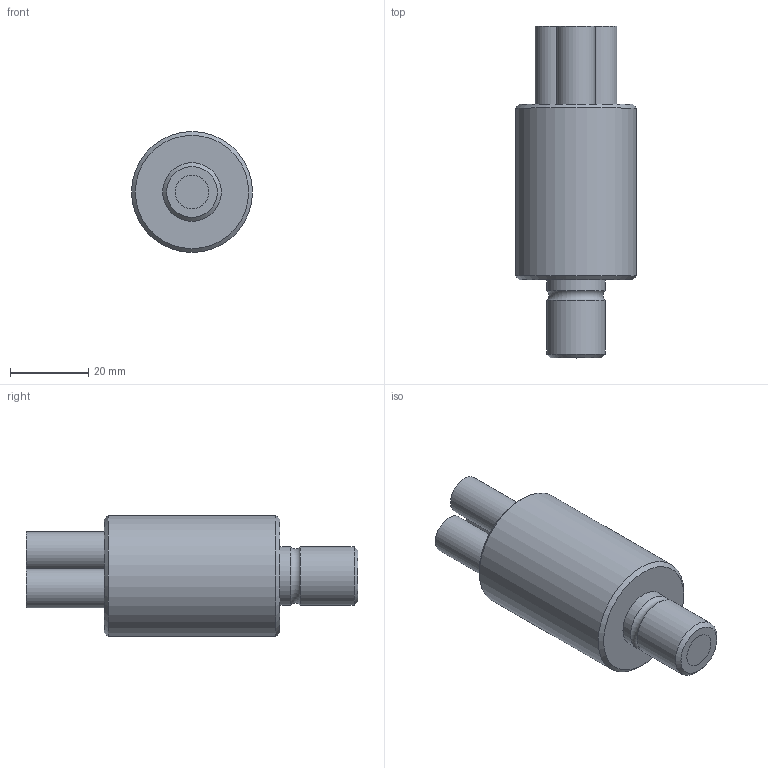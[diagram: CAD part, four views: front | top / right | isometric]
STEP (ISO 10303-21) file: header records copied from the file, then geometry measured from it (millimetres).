
FILE_DESCRIPTION(/* description */ (''),/* implementation_level */ '2;1');
FILE_NAME(/* name */ '//sv004/特品事業部/特品共通フォルダ/☆社外用データテスト/01_製品関連/0121_ライトガイド関連/3D図面/LGC3-5L 共通受光部.step',/* time_stamp */ '2022-09-27T14:22:40+09:00',/* author */ (''),/* organization */ (''),/* preprocessor_version */ 'ST-DEVELOPER v19',/* originating_system */ 'Autodesk Translation Framework v11.7.0.108',/* authorisation */ '');
FILE_SCHEMA (('AUTOMOTIVE_DESIGN { 1 0 10303 214 3 1 1 }'));
Length unit declared in the file: millimetre
Products named in the file (1): LGC3-5L 共通受光部
Bounding box: 31 x 85 x 31 mm (x, y, z)
Volume: 42047.5 mm3; surface area: 12153.4 mm2
Topology: 8 solids, 8 shells, 36 faces, 49 edges, 31 vertices
Faces by surface type: plane 18, cylinder 14, cone 3, torus 1
Full cylindrical faces by diameter (mm): 5 x6, 8.7 x2, 10 x3, 15 x2, 31 x1
Entity records: 803 total; most frequent: DIRECTION 155, CARTESIAN_POINT 117, ORIENTED_EDGE 98, AXIS2_PLACEMENT_3D 69, EDGE_CURVE 49, EDGE_LOOP 44, FACE_OUTER_BOUND 36, ADVANCED_FACE 36
